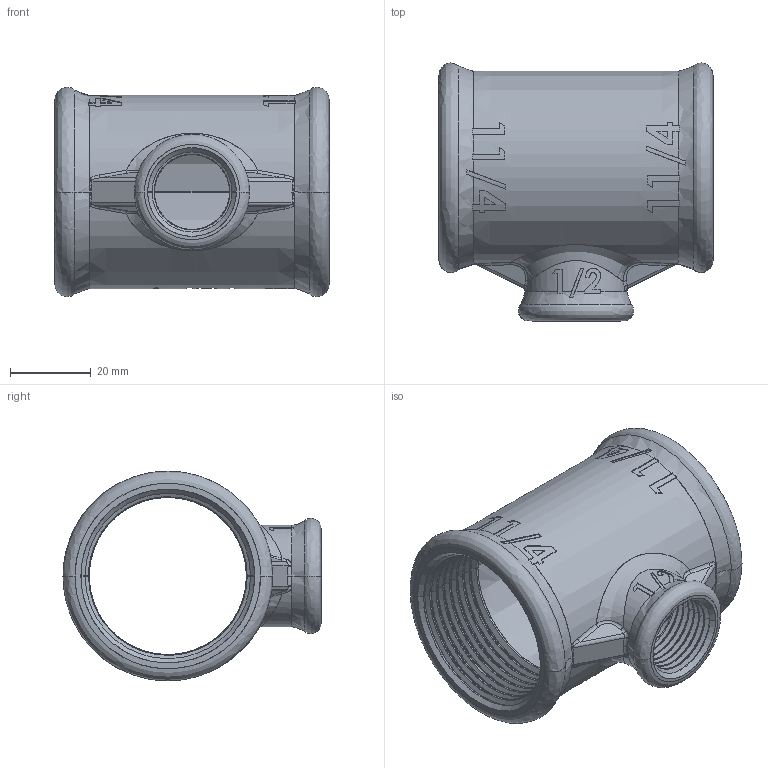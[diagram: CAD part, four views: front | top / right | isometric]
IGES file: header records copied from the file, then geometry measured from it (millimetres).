
Start section: SolidWorks IGES file using analytic representation for surfaces
Global section: file name: C:\Users\Joel Rosa\Desktop\Tubulação\12-45-XXX\12-45-035.IGS; native system: SolidWorks 2011; preprocessor: SolidWorks 2011; author: Joel Rosa; date: 121212.233459; units: millimetre
Bounding box: 68 x 64 x 52 mm (x, y, z)
Surface area: 26119.5 mm2 (no closed solid volume)
Topology: 0 solids, 0 shells, 501 faces, 4212 edges, 4212 vertices
Faces by surface type: bspline 359, revolution 142
